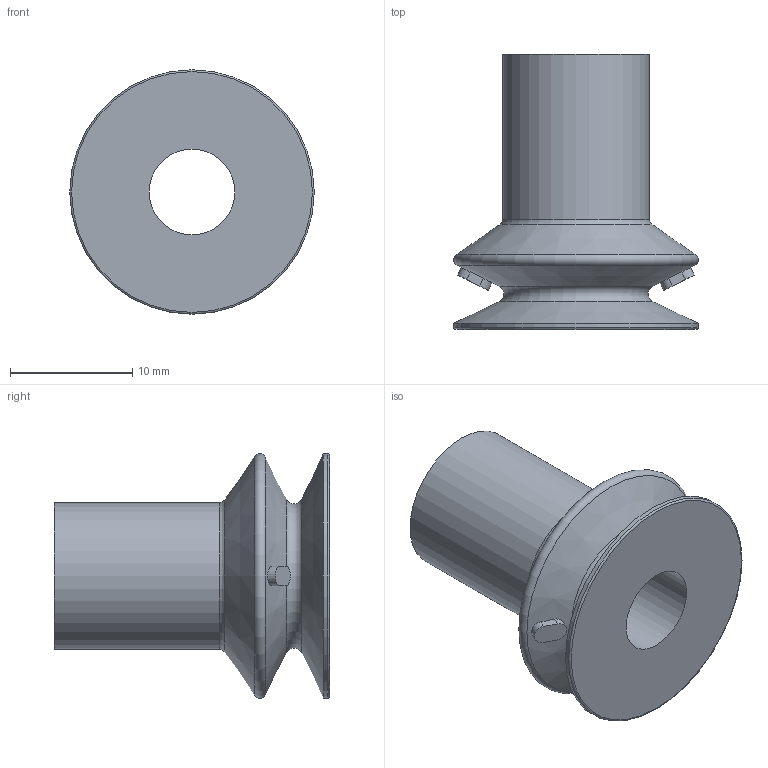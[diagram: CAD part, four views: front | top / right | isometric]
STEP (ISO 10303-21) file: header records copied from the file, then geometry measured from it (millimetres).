
FILE_DESCRIPTION(/* description */ (''),/* implementation_level */ '2;1');
FILE_NAME(/* name */ 'W:\Technik\Konstruktion\CAD-Daten\Vakuumsauger\23_\23.020.133\23.020.133_Kd neu.stp',/* time_stamp */ '2017-06-22T12:35:06+02:00',/* author */ ('DFloßmann'),/* organization */ (''),/* preprocessor_version */ 'ST-DEVELOPER v16.5',/* originating_system */ 'Autodesk Inventor 2017',/* authorisation */ '');
FILE_SCHEMA (('AUTOMOTIVE_DESIGN { 1 0 10303 214 3 1 1 }'));
Length unit declared in the file: millimetre
Products named in the file (1): 23.020.133_Kd neu
Bounding box: 20 x 22.5 x 20 mm (x, y, z)
Volume: 2514 mm3; surface area: 2171.6 mm2
Topology: 3 solids, 3 shells, 26 faces, 53 edges, 32 vertices
Faces by surface type: plane 12, cylinder 7, torus 4, cone 3
Full cylindrical faces by diameter (mm): 7 x1, 12 x1, 20 x1
Entity records: 660 total; most frequent: DIRECTION 120, CARTESIAN_POINT 101, ORIENTED_EDGE 88, AXIS2_PLACEMENT_3D 51, EDGE_CURVE 42, EDGE_LOOP 40, VERTEX_POINT 32, FACE_OUTER_BOUND 26
